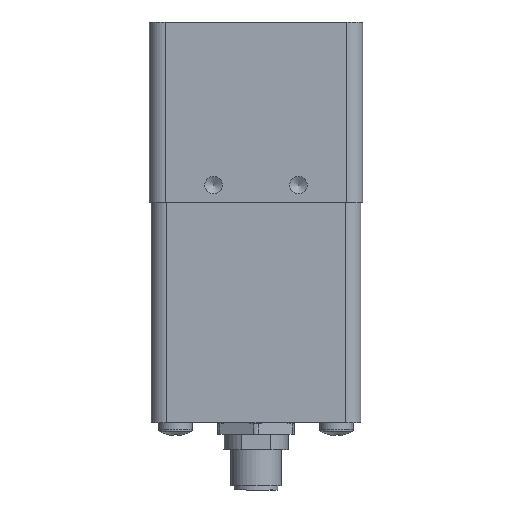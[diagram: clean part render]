
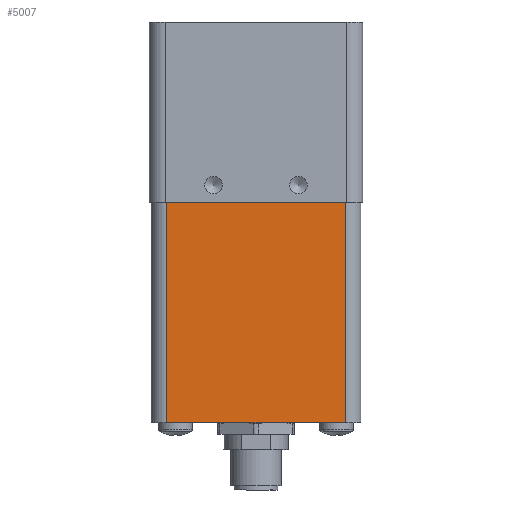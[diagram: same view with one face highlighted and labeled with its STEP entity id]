
A CAD part, front view. The second image highlights one B-rep face of the part: STEP entity #5007.
In plain terms, the highlighted planar face has unit normal (0, -1, 0).
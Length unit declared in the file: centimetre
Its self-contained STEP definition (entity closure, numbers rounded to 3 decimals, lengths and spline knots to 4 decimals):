
#156=PLANE('',#5369);
#616=FACE_OUTER_BOUND('',#956,.T.);
#956=EDGE_LOOP('',(#3950,#3951,#3952,#3953));
#1315=LINE('',#8945,#1696);
#1492=LINE('',#9735,#1873);
#1493=LINE('',#9739,#1874);
#1494=LINE('',#9740,#1875);
#1696=VECTOR('',#5819,4.2);
#1873=VECTOR('',#6280,5.2);
#1874=VECTOR('',#6285,5.2);
#1875=VECTOR('',#6286,4.2);
#2113=VERTEX_POINT('',#8942);
#2114=VERTEX_POINT('',#8944);
#2293=VERTEX_POINT('',#9734);
#2294=VERTEX_POINT('',#9738);
#2615=EDGE_CURVE('',#2113,#2114,#1315,.T.);
#2880=EDGE_CURVE('',#2114,#2293,#1492,.T.);
#2882=EDGE_CURVE('',#2294,#2113,#1493,.T.);
#2883=EDGE_CURVE('',#2294,#2293,#1494,.T.);
#3950=ORIENTED_EDGE('',*,*,#2880,.F.);
#3951=ORIENTED_EDGE('',*,*,#2615,.F.);
#3952=ORIENTED_EDGE('',*,*,#2882,.F.);
#3953=ORIENTED_EDGE('',*,*,#2883,.T.);
#5007=ADVANCED_FACE('',(#616),#156,.T.);
#5369=AXIS2_PLACEMENT_3D('',#9737,#6283,#6284);
#5819=DIRECTION('',(1.,0.,0.));
#6280=DIRECTION('',(0.,0.,-1.));
#6283=DIRECTION('center_axis',(0.,-1.,0.));
#6284=DIRECTION('ref_axis',(0.,0.,-1.));
#6285=DIRECTION('',(0.,0.,1.));
#6286=DIRECTION('',(1.,0.,0.));
#8942=CARTESIAN_POINT('',(0.4175,0.0425,-2.05));
#8944=CARTESIAN_POINT('',(4.6175,0.0425,-2.05));
#8945=CARTESIAN_POINT('',(0.4175,0.0425,-2.05));
#9734=CARTESIAN_POINT('',(4.6175,0.0425,-7.25));
#9735=CARTESIAN_POINT('',(4.6175,0.0425,-2.05));
#9737=CARTESIAN_POINT('Origin',(0.0425,0.0425,-6.94));
#9738=CARTESIAN_POINT('',(0.4175,0.0425,-7.25));
#9739=CARTESIAN_POINT('',(0.4175,0.0425,-7.25));
#9740=CARTESIAN_POINT('',(0.4175,0.0425,-7.25));
